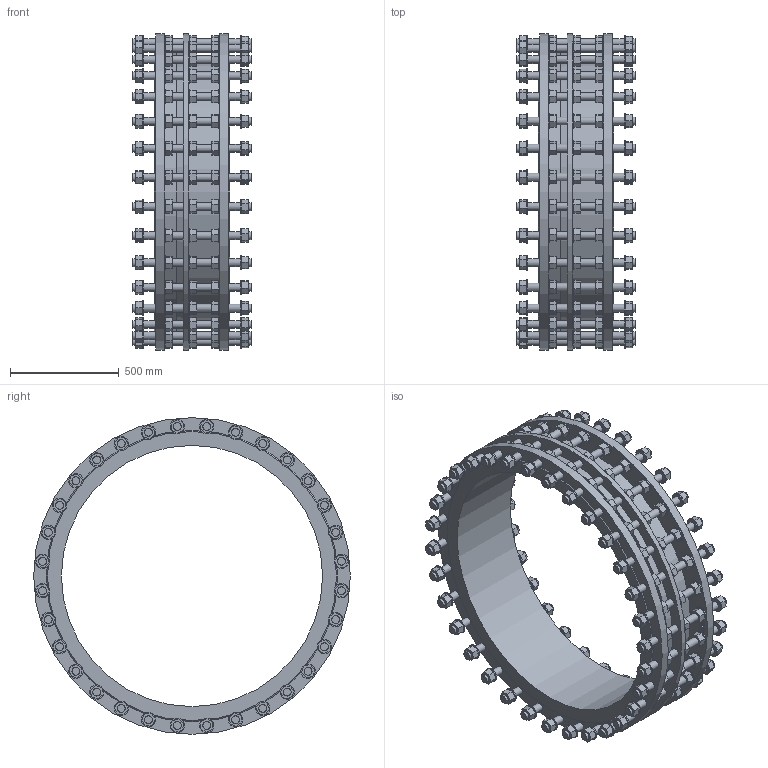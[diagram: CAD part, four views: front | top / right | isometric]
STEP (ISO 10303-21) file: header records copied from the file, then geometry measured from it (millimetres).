
FILE_DESCRIPTION (( 'STEP AP203' ), '1' );
FILE_NAME ('O_265_911_DN1200_0XXXXX01_L=345_REV01.step', '2024-12-12T08:37:54', ( '' ), ( '' ), 'SwSTEP 2.0', 'SolidWorks 2022', '' );
FILE_SCHEMA (( 'CONFIG_CONTROL_DESIGN' ));
Length unit declared in the file: millimetre
Products named in the file (1): O_265_911_DN1200_0XXXXX01_L=345_REV01
Bounding box: 545 x 1455 x 1455 mm (x, y, z)
Volume: 107953211.6 mm3; surface area: 7685025.1 mm2
Topology: 1 solids, 1 shells, 1819 faces, 4203 edges, 2845 vertices
Faces by surface type: plane 1456, cylinder 360, cone 3
Full cylindrical faces by diameter (mm): 36 x192, 66 x160, 1200 x1, 1232 x1, 1280 x1, 1455 x3
Entity records: 48686 total; most frequent: CARTESIAN_POINT 8249, DIRECTION 8079, ORIENTED_EDGE 7426, EDGE_CURVE 3713, VECTOR 2987, LINE 2987, EDGE_LOOP 2769, VERTEX_POINT 2716
